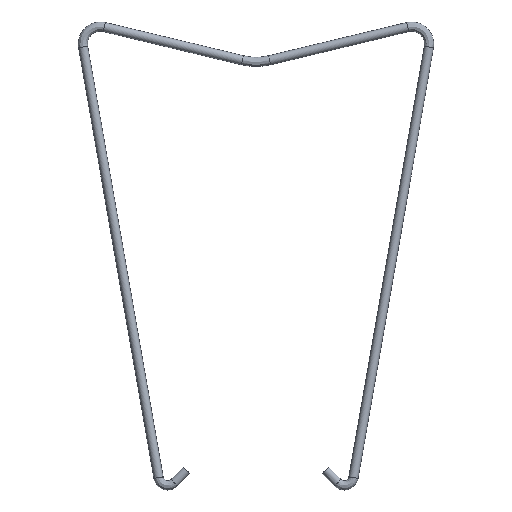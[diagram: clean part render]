
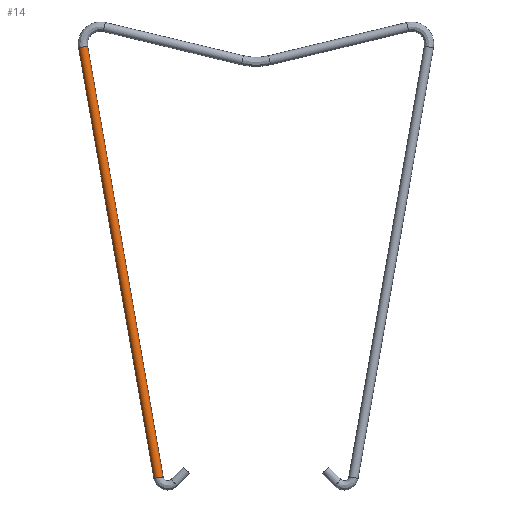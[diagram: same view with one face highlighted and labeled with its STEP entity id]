
A CAD part, top view. The second image highlights one B-rep face of the part: STEP entity #14.
In plain terms, the highlighted cylindrical face has radius 0.4 mm (diameter 0.8 mm), a partial arc.
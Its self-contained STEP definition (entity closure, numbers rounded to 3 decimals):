
#1 = DIRECTION ( 'NONE',  ( 0.172, -0.985, 0. ) ) ;
#13 = CARTESIAN_POINT ( 'NONE',  ( -14.506, 37.852, 0. ) ) ;
#14 = ADVANCED_FACE ( 'NONE', ( #676 ), #605, .T. ) ;
#30 = VERTEX_POINT ( 'NONE', #13 ) ;
#39 = CARTESIAN_POINT ( 'NONE',  ( -14.506, 37.852, 0. ) ) ;
#80 = LINE ( 'NONE', #39, #330 ) ;
#116 = DIRECTION ( 'NONE',  ( 0.985, 0.172, 0. ) ) ;
#124 = ORIENTED_EDGE ( 'NONE', *, *, #280, .T. ) ;
#169 = CARTESIAN_POINT ( 'NONE',  ( -15.294, 37.714, 0. ) ) ;
#188 = DIRECTION ( 'NONE',  ( 0.985, 0.172, 0. ) ) ;
#191 = DIRECTION ( 'NONE',  ( -0.172, 0.985, 0. ) ) ;
#198 = CARTESIAN_POINT ( 'NONE',  ( -14.9, 37.783, 0. ) ) ;
#226 = EDGE_CURVE ( 'NONE', #30, #769, #764, .T. ) ;
#252 = DIRECTION ( 'NONE',  ( 0.985, 0.172, 0. ) ) ;
#257 = VERTEX_POINT ( 'NONE', #471 ) ;
#280 = EDGE_CURVE ( 'NONE', #769, #257, #359, .T. ) ;
#320 = VECTOR ( 'NONE', #1, 1000. ) ;
#330 = VECTOR ( 'NONE', #454, 1000. ) ;
#340 = AXIS2_PLACEMENT_3D ( 'NONE', #537, #599, #116 ) ;
#359 = LINE ( 'NONE', #169, #320 ) ;
#380 = ORIENTED_EDGE ( 'NONE', *, *, #399, .T. ) ;
#399 = EDGE_CURVE ( 'NONE', #257, #751, #501, .T. ) ;
#417 = ORIENTED_EDGE ( 'NONE', *, *, #729, .F. ) ;
#444 = CARTESIAN_POINT ( 'NONE',  ( -15.294, 37.714, 0. ) ) ;
#454 = DIRECTION ( 'NONE',  ( 0.172, -0.985, 0. ) ) ;
#471 = CARTESIAN_POINT ( 'NONE',  ( -8.794, 0.593, 0. ) ) ;
#496 = EDGE_LOOP ( 'NONE', ( #730, #124, #380, #417 ) ) ;
#501 = CIRCLE ( 'NONE', #642, 0.4 ) ;
#537 = CARTESIAN_POINT ( 'NONE',  ( -14.9, 37.783, 0. ) ) ;
#551 = CARTESIAN_POINT ( 'NONE',  ( -8.4, 0.662, 0. ) ) ;
#599 = DIRECTION ( 'NONE',  ( 0.172, -0.985, 0. ) ) ;
#605 = CYLINDRICAL_SURFACE ( 'NONE', #340, 0.4 ) ;
#621 = DIRECTION ( 'NONE',  ( 0.172, -0.985, 0. ) ) ;
#642 = AXIS2_PLACEMENT_3D ( 'NONE', #551, #191, #188 ) ;
#676 = FACE_OUTER_BOUND ( 'NONE', #496, .T. ) ;
#729 = EDGE_CURVE ( 'NONE', #30, #751, #80, .T. ) ;
#730 = ORIENTED_EDGE ( 'NONE', *, *, #226, .T. ) ;
#743 = CARTESIAN_POINT ( 'NONE',  ( -8.006, 0.731, 0. ) ) ;
#751 = VERTEX_POINT ( 'NONE', #743 ) ;
#760 = AXIS2_PLACEMENT_3D ( 'NONE', #198, #621, #252 ) ;
#764 = CIRCLE ( 'NONE', #760, 0.4 ) ;
#769 = VERTEX_POINT ( 'NONE', #444 ) ;
